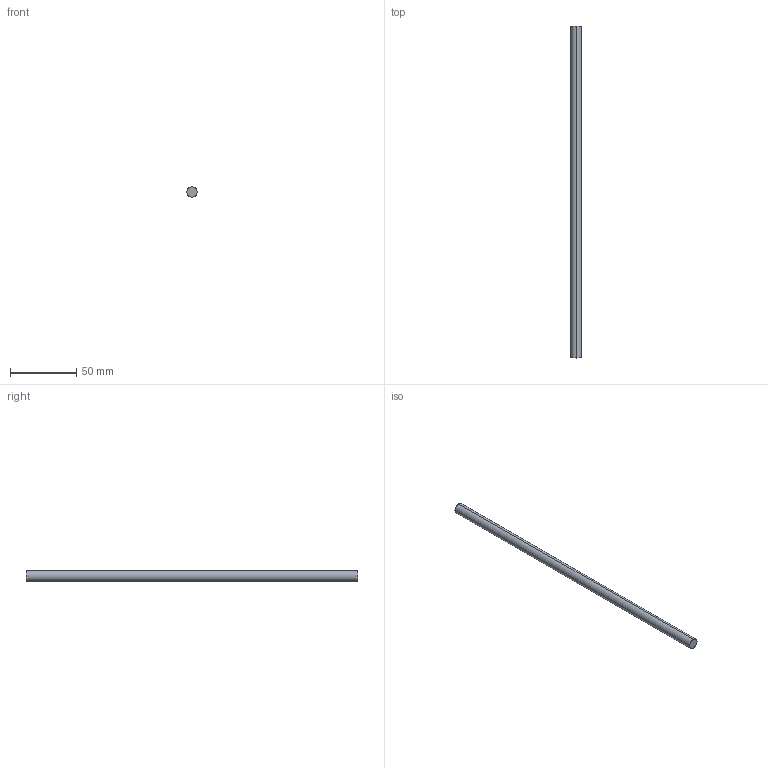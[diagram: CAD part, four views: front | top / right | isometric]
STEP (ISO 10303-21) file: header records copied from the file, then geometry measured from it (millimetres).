
FILE_DESCRIPTION (( 'STEP AP203' ), '1' );
FILE_NAME ('2100-0008-0250.STEP', '2020-05-29T15:11:20', ( '' ), ( '' ), 'SwSTEP 2.0', 'SolidWorks 2016', '' );
FILE_SCHEMA (( 'CONFIG_CONTROL_DESIGN' ));
Length unit declared in the file: millimetre
Products named in the file (1): 2100-0008-0250
Bounding box: 8 x 250 x 8 mm (x, y, z)
Volume: 12566 mm3; surface area: 6380 mm2
Topology: 1 solids, 1 shells, 8 faces, 14 edges, 8 vertices
Faces by surface type: cone 4, cylinder 2, plane 2
Entity records: 271 total; most frequent: DIRECTION 40, CARTESIAN_POINT 31, ORIENTED_EDGE 28, AXIS2_PLACEMENT_3D 17, EDGE_CURVE 14, FACE_OUTER_BOUND 8, EDGE_LOOP 8, VERTEX_POINT 8
